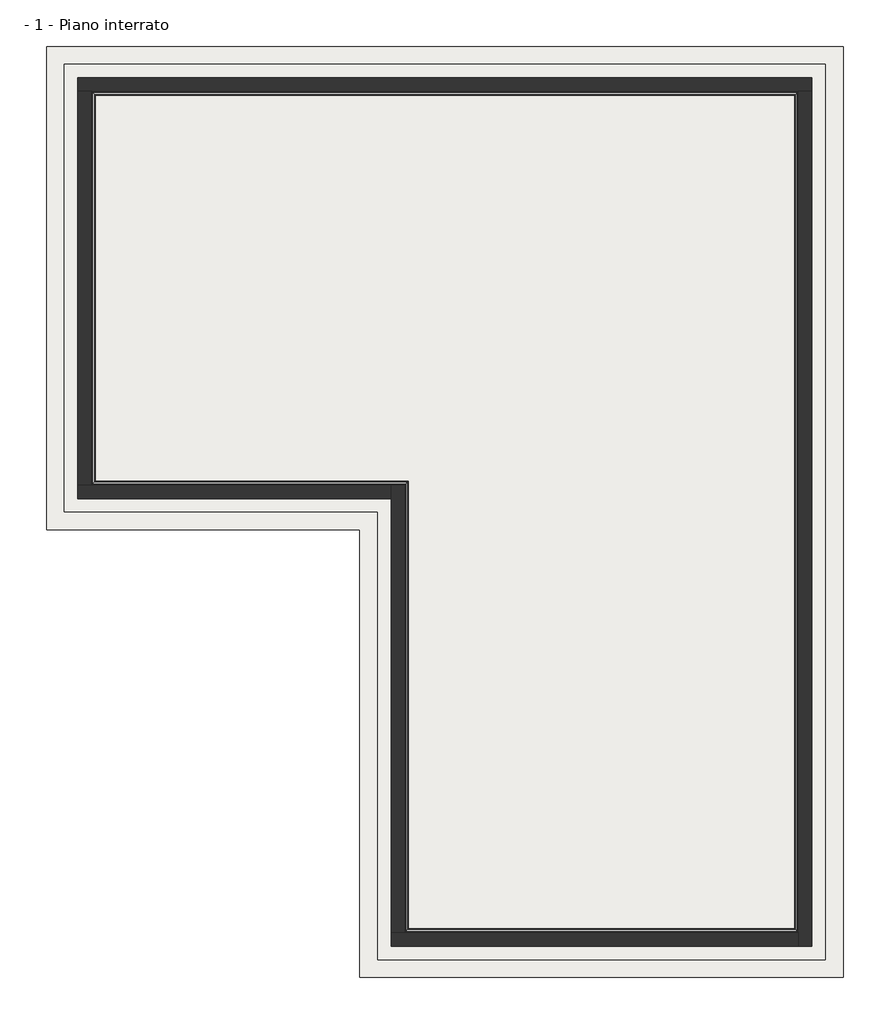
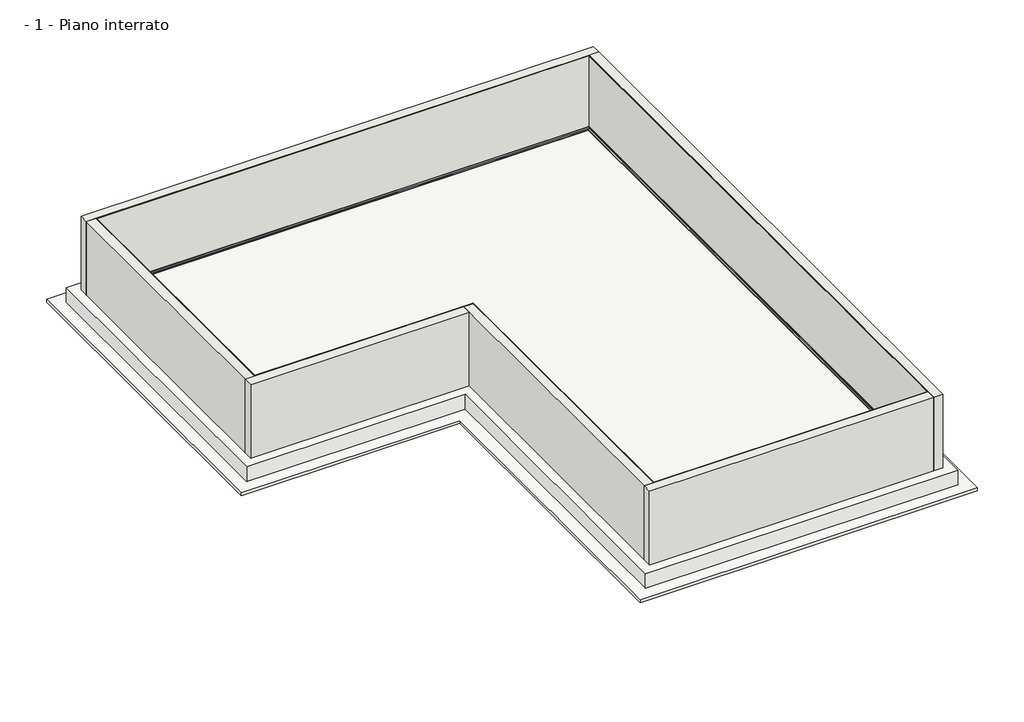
# One storey: 24 walls, 3 slabs, 2 proxies.
"""IFC4 building model written with IfcOpenShell, lengths in millimetres."""

from ifc_helpers import new_model, si_unit, frame, origin, place, context, project, spatial, polyline, outline, extrude, faceted_brep, transform, mapped, element, save
from components import generic_models_3b7ed561

model = new_model("IFC4")

# Units and contexts
model_context = context("Model", 3, world=origin())
ifc_project = project(units=[si_unit("LENGTHUNIT", "METRE", prefix="MILLI")], contexts=[model_context])

# Site, building, storey
site = spatial("IfcSite", under=ifc_project)
building = spatial("IfcBuilding", under=site)
storey = spatial("IfcBuildingStorey", under=building, Name="- 1 - Piano interrato", Elevation=-2500.0)

# Proxies
placement = place(None, origin())
element("IfcBuildingElementProxy", 1, Name="SISTEMA BI FLEX H.10 VOLTECO", ObjectType="SISTEMA BI FLEX H.10 VOLTECO", at=placement, inside=storey, context=model_context, shape_type="Brep", body=[
    faceted_brep([(10189.1031791, -9688.351087, -2459.0), (10191.6031791, -9690.851087, -2456.5), (10198.6031791, -9697.851087, -2456.5), (10200.1031791, -9699.351087, -2455.5), (10247.6031791, -9746.851087, -2455.5), (10247.6031791, -9746.851087, -2408.0), (10248.6031791, -9747.851087, -2406.5), (10248.6031791, -9747.851087, -2399.5), (10251.1031791, -9750.351087, -2397.0), (10251.1031791, -9750.351087, -2459.0), (10250.1031791, -9749.351087, -2408.0), (10249.1031791, -9748.351087, -2408.0), (10249.1031791, -9748.351087, -2457.0), (10200.1031791, -9699.351087, -2457.0), (10200.1031791, -9699.351087, -2458.0), (10250.1031791, -9749.351087, -2458.0), (1555.1031791, -9688.351087, -2459.0), (1493.1031791, -9750.351087, -2459.0), (1493.1031791, -9750.351087, -2397.0), (1495.6031791, -9747.851087, -2399.5), (1495.6031791, -9747.851087, -2406.5), (1496.6031791, -9746.851087, -2408.0), (1496.6031791, -9746.851087, -2455.5), (1544.1031791, -9699.351087, -2455.5), (1545.6031791, -9697.851087, -2456.5), (1552.6031791, -9690.851087, -2456.5), (1494.1031791, -9749.351087, -2408.0), (1494.1031791, -9749.351087, -2458.0), (1544.1031791, -9699.351087, -2458.0), (1544.1031791, -9699.351087, -2457.0), (1495.1031791, -9748.351087, -2457.0), (1495.1031791, -9748.351087, -2408.0)], [[[0, 1, 2, 3, 4, 5, 6, 7, 8, 9], [10, 11, 12, 13, 14, 15]], [[16, 17, 18, 19, 20, 21, 22, 23, 24, 25], [26, 27, 28, 29, 30, 31]], [[1, 0, 16, 25]], [[2, 1, 25, 24]], [[3, 2, 24, 23]], [[4, 3, 23, 22]], [[5, 4, 22, 21]], [[6, 5, 21, 20]], [[7, 6, 20, 19]], [[8, 7, 19, 18]], [[9, 8, 18, 17]], [[0, 9, 17, 16]], [[11, 10, 26, 31]], [[12, 11, 31, 30]], [[13, 12, 30, 29]], [[14, 13, 29, 28]], [[15, 14, 28, 27]], [[10, 15, 27, 26]]]),
    faceted_brep([(1555.1031791, -9688.351087, -2459.0), (1552.6031791, -9690.851087, -2456.5), (1545.6031791, -9697.851087, -2456.5), (1544.1031791, -9699.351087, -2455.5), (1496.6031791, -9746.851087, -2455.5), (1496.6031791, -9746.851087, -2408.0), (1495.6031791, -9747.851087, -2406.5), (1495.6031791, -9747.851087, -2399.5), (1493.1031791, -9750.351087, -2397.0), (1493.1031791, -9750.351087, -2459.0), (1494.1031791, -9749.351087, -2408.0), (1495.1031791, -9748.351087, -2408.0), (1495.1031791, -9748.351087, -2457.0), (1544.1031791, -9699.351087, -2457.0), (1544.1031791, -9699.351087, -2458.0), (1494.1031791, -9749.351087, -2458.0), (1555.1031791, 311.648913, -2459.0), (1493.1031791, 249.648913, -2459.0), (1493.1031791, 249.648913, -2397.0), (1495.6031791, 252.148913, -2399.5), (1495.6031791, 252.148913, -2406.5), (1496.6031791, 253.148913, -2408.0), (1496.6031791, 253.148913, -2455.5), (1544.1031791, 300.648913, -2455.5), (1545.6031791, 302.148913, -2456.5), (1552.6031791, 309.148913, -2456.5), (1494.1031791, 250.648913, -2408.0), (1494.1031791, 250.648913, -2458.0), (1544.1031791, 300.648913, -2458.0), (1544.1031791, 300.648913, -2457.0), (1495.1031791, 251.648913, -2457.0), (1495.1031791, 251.648913, -2408.0)], [[[0, 1, 2, 3, 4, 5, 6, 7, 8, 9], [10, 11, 12, 13, 14, 15]], [[16, 17, 18, 19, 20, 21, 22, 23, 24, 25], [26, 27, 28, 29, 30, 31]], [[1, 0, 16, 25]], [[2, 1, 25, 24]], [[3, 2, 24, 23]], [[4, 3, 23, 22]], [[5, 4, 22, 21]], [[6, 5, 21, 20]], [[7, 6, 20, 19]], [[8, 7, 19, 18]], [[9, 8, 18, 17]], [[0, 9, 17, 16]], [[11, 10, 26, 31]], [[12, 11, 31, 30]], [[13, 12, 30, 29]], [[14, 13, 29, 28]], [[15, 14, 28, 27]], [[10, 15, 27, 26]]]),
    faceted_brep([(1555.1031791, 311.648913, -2459.0), (1552.6031791, 309.148913, -2456.5), (1545.6031791, 302.148913, -2456.5), (1544.1031791, 300.648913, -2455.5), (1496.6031791, 253.148913, -2455.5), (1496.6031791, 253.148913, -2408.0), (1495.6031791, 252.148913, -2406.5), (1495.6031791, 252.148913, -2399.5), (1493.1031791, 249.648913, -2397.0), (1493.1031791, 249.648913, -2459.0), (1494.1031791, 250.648913, -2408.0), (1495.1031791, 251.648913, -2408.0), (1495.1031791, 251.648913, -2457.0), (1544.1031791, 300.648913, -2457.0), (1544.1031791, 300.648913, -2458.0), (1494.1031791, 250.648913, -2458.0), (-5444.8968209, 311.648913, -2459.0), (-5506.8968209, 249.648913, -2459.0), (-5506.8968209, 249.648913, -2397.0), (-5504.3968209, 252.148913, -2399.5), (-5504.3968209, 252.148913, -2406.5), (-5503.3968209, 253.148913, -2408.0), (-5503.3968209, 253.148913, -2455.5), (-5455.8968209, 300.648913, -2455.5), (-5454.3968209, 302.148913, -2456.5), (-5447.3968209, 309.148913, -2456.5), (-5505.8968209, 250.648913, -2408.0), (-5505.8968209, 250.648913, -2458.0), (-5455.8968209, 300.648913, -2458.0), (-5455.8968209, 300.648913, -2457.0), (-5504.8968209, 251.648913, -2457.0), (-5504.8968209, 251.648913, -2408.0)], [[[0, 1, 2, 3, 4, 5, 6, 7, 8, 9], [10, 11, 12, 13, 14, 15]], [[16, 17, 18, 19, 20, 21, 22, 23, 24, 25], [26, 27, 28, 29, 30, 31]], [[1, 0, 16, 25]], [[2, 1, 25, 24]], [[3, 2, 24, 23]], [[4, 3, 23, 22]], [[5, 4, 22, 21]], [[6, 5, 21, 20]], [[7, 6, 20, 19]], [[8, 7, 19, 18]], [[9, 8, 18, 17]], [[0, 9, 17, 16]], [[11, 10, 26, 31]], [[12, 11, 31, 30]], [[13, 12, 30, 29]], [[14, 13, 29, 28]], [[15, 14, 28, 27]], [[10, 15, 27, 26]]]),
    faceted_brep([(-5444.8968209, 311.648913, -2459.0), (-5447.3968209, 309.148913, -2456.5), (-5454.3968209, 302.148913, -2456.5), (-5455.8968209, 300.648913, -2455.5), (-5503.3968209, 253.148913, -2455.5), (-5503.3968209, 253.148913, -2408.0), (-5504.3968209, 252.148913, -2406.5), (-5504.3968209, 252.148913, -2399.5), (-5506.8968209, 249.648913, -2397.0), (-5506.8968209, 249.648913, -2459.0), (-5505.8968209, 250.648913, -2408.0), (-5504.8968209, 251.648913, -2408.0), (-5504.8968209, 251.648913, -2457.0), (-5455.8968209, 300.648913, -2457.0), (-5455.8968209, 300.648913, -2458.0), (-5505.8968209, 250.648913, -2458.0), (-5444.8968209, 8945.648913, -2459.0), (-5506.8968209, 9007.648913, -2459.0), (-5506.8968209, 9007.648913, -2397.0), (-5504.3968209, 9005.148913, -2399.5), (-5504.3968209, 9005.148913, -2406.5), (-5503.3968209, 9004.148913, -2408.0), (-5503.3968209, 9004.148913, -2455.5), (-5455.8968209, 8956.648913, -2455.5), (-5454.3968209, 8955.148913, -2456.5), (-5447.3968209, 8948.148913, -2456.5), (-5505.8968209, 9006.648913, -2408.0), (-5505.8968209, 9006.648913, -2458.0), (-5455.8968209, 8956.648913, -2458.0), (-5455.8968209, 8956.648913, -2457.0), (-5504.8968209, 9005.648913, -2457.0), (-5504.8968209, 9005.648913, -2408.0)], [[[0, 1, 2, 3, 4, 5, 6, 7, 8, 9], [10, 11, 12, 13, 14, 15]], [[16, 17, 18, 19, 20, 21, 22, 23, 24, 25], [26, 27, 28, 29, 30, 31]], [[1, 0, 16, 25]], [[2, 1, 25, 24]], [[3, 2, 24, 23]], [[4, 3, 23, 22]], [[5, 4, 22, 21]], [[6, 5, 21, 20]], [[7, 6, 20, 19]], [[8, 7, 19, 18]], [[9, 8, 18, 17]], [[0, 9, 17, 16]], [[11, 10, 26, 31]], [[12, 11, 31, 30]], [[13, 12, 30, 29]], [[14, 13, 29, 28]], [[15, 14, 28, 27]], [[10, 15, 27, 26]]]),
    faceted_brep([(-5444.8968209, 8945.648913, -2459.0), (-5447.3968209, 8948.148913, -2456.5), (-5454.3968209, 8955.148913, -2456.5), (-5455.8968209, 8956.648913, -2455.5), (-5503.3968209, 9004.148913, -2455.5), (-5503.3968209, 9004.148913, -2408.0), (-5504.3968209, 9005.148913, -2406.5), (-5504.3968209, 9005.148913, -2399.5), (-5506.8968209, 9007.648913, -2397.0), (-5506.8968209, 9007.648913, -2459.0), (-5505.8968209, 9006.648913, -2408.0), (-5504.8968209, 9005.648913, -2408.0), (-5504.8968209, 9005.648913, -2457.0), (-5455.8968209, 8956.648913, -2457.0), (-5455.8968209, 8956.648913, -2458.0), (-5505.8968209, 9006.648913, -2458.0), (10189.1031791, 8945.648913, -2459.0), (10251.1031791, 9007.648913, -2459.0), (10251.1031791, 9007.648913, -2397.0), (10248.6031791, 9005.148913, -2399.5), (10248.6031791, 9005.148913, -2406.5), (10247.6031791, 9004.148913, -2408.0), (10247.6031791, 9004.148913, -2455.5), (10200.1031791, 8956.648913, -2455.5), (10198.6031791, 8955.148913, -2456.5), (10191.6031791, 8948.148913, -2456.5), (10250.1031791, 9006.648913, -2408.0), (10250.1031791, 9006.648913, -2458.0), (10200.1031791, 8956.648913, -2458.0), (10200.1031791, 8956.648913, -2457.0), (10249.1031791, 9005.648913, -2457.0), (10249.1031791, 9005.648913, -2408.0)], [[[0, 1, 2, 3, 4, 5, 6, 7, 8, 9], [10, 11, 12, 13, 14, 15]], [[16, 17, 18, 19, 20, 21, 22, 23, 24, 25], [26, 27, 28, 29, 30, 31]], [[1, 0, 16, 25]], [[2, 1, 25, 24]], [[3, 2, 24, 23]], [[4, 3, 23, 22]], [[5, 4, 22, 21]], [[6, 5, 21, 20]], [[7, 6, 20, 19]], [[8, 7, 19, 18]], [[9, 8, 18, 17]], [[0, 9, 17, 16]], [[11, 10, 26, 31]], [[12, 11, 31, 30]], [[13, 12, 30, 29]], [[14, 13, 29, 28]], [[15, 14, 28, 27]], [[10, 15, 27, 26]]]),
    faceted_brep([(10189.1031791, 8945.648913, -2459.0), (10191.6031791, 8948.148913, -2456.5), (10198.6031791, 8955.148913, -2456.5), (10200.1031791, 8956.648913, -2455.5), (10247.6031791, 9004.148913, -2455.5), (10247.6031791, 9004.148913, -2408.0), (10248.6031791, 9005.148913, -2406.5), (10248.6031791, 9005.148913, -2399.5), (10251.1031791, 9007.648913, -2397.0), (10251.1031791, 9007.648913, -2459.0), (10250.1031791, 9006.648913, -2408.0), (10249.1031791, 9005.648913, -2408.0), (10249.1031791, 9005.648913, -2457.0), (10200.1031791, 8956.648913, -2457.0), (10200.1031791, 8956.648913, -2458.0), (10250.1031791, 9006.648913, -2458.0), (10189.1031791, -9688.351087, -2459.0), (10251.1031791, -9750.351087, -2459.0), (10251.1031791, -9750.351087, -2397.0), (10248.6031791, -9747.851087, -2399.5), (10248.6031791, -9747.851087, -2406.5), (10247.6031791, -9746.851087, -2408.0), (10247.6031791, -9746.851087, -2455.5), (10200.1031791, -9699.351087, -2455.5), (10198.6031791, -9697.851087, -2456.5), (10191.6031791, -9690.851087, -2456.5), (10250.1031791, -9749.351087, -2408.0), (10250.1031791, -9749.351087, -2458.0), (10200.1031791, -9699.351087, -2458.0), (10200.1031791, -9699.351087, -2457.0), (10249.1031791, -9748.351087, -2457.0), (10249.1031791, -9748.351087, -2408.0)], [[[0, 1, 2, 3, 4, 5, 6, 7, 8, 9], [10, 11, 12, 13, 14, 15]], [[16, 17, 18, 19, 20, 21, 22, 23, 24, 25], [26, 27, 28, 29, 30, 31]], [[1, 0, 16, 25]], [[2, 1, 25, 24]], [[3, 2, 24, 23]], [[4, 3, 23, 22]], [[5, 4, 22, 21]], [[6, 5, 21, 20]], [[7, 6, 20, 19]], [[8, 7, 19, 18]], [[9, 8, 18, 17]], [[0, 9, 17, 16]], [[11, 10, 26, 31]], [[12, 11, 31, 30]], [[13, 12, 30, 29]], [[14, 13, 29, 28]], [[15, 14, 28, 27]], [[10, 15, 27, 26]]]),
])
generic_models_shape = generic_models_3b7ed561(model_context)
element("IfcBuildingElementProxy", 2, Name="ENG-Connectors installed in vertical walls sealed with AKTI-VO 201 : ENG-Connectors installed in vertical walls sealed with AKTI-VO 201", ObjectType="ENG-Connectors installed in vertical walls sealed with AKTI-VO 201 : ENG-Connectors installed in vertical walls sealed with AKTI-VO 201", at=placement, inside=storey, context=model_context, shape_type="MappedRepresentation", body=[
    mapped(generic_models_shape, transform((-5445.8968209, 9007.648913, -2481.8734351), x_axis=(1.0, 0.0, 0.0), y_axis=(0.0, 0.0, 1.0), z_axis=(0.0, -1.0, 0.0))),
])

# Slabs
element("IfcSlab", 3, ObjectType="BI MORTAR LEVELLING SEAL VOLTECO", at=placement, inside=storey, context=model_context, shape_type="SweptSolid", body=[
    extrude(outline(polyline([(10251.1031791, 9007.648913), (10251.1031791, -9750.351087), (1493.1031791, -9750.351087), (1493.1031791, 249.648913), (-5506.8968209, 249.648913), (-5506.8968209, 9007.648913), (10251.1031791, 9007.648913)])), frame((0.0, 0.0, -2500.0), z_axis=(0.0, 0.0, 1.0), x_axis=(1.0, 0.0, 0.0)), (0.0, 0.0, 1.0), 20.0),
])
element("IfcSlab", 4, ObjectType="Blinding concrete", at=placement, inside=storey, context=model_context, shape_type="SweptSolid", body=[
    extrude(outline(polyline([(-6527.8968209, 10028.648913), (11272.1031791, 10028.648913), (11272.1031791, -10771.351087), (472.1031791, -10771.351087), (472.1031791, -771.351087), (-6527.8968209, -771.351087), (-6527.8968209, 10028.648913)])), frame((0.0, 0.0, -3100.0), z_axis=(0.0, 0.0, 1.0), x_axis=(1.0, 0.0, 0.0)), (0.0, 0.0, 1.0), 100.0),
])
element("IfcSlab", 5, ObjectType="Raft Foundation", at=placement, inside=storey, context=model_context, shape_type="SweptSolid", body=[
    extrude(outline(polyline([(-6127.8968209, -371.351087), (-6127.8968209, 9628.648913), (10872.1031791, 9628.648913), (10872.1031791, -10371.351087), (872.1031791, -10371.351087), (872.1031791, -371.351087), (-6127.8968209, -371.351087)])), frame((0.0, 0.0, -3000.0), z_axis=(0.0, 0.0, 1.0), x_axis=(1.0, 0.0, 0.0)), (0.0, 0.0, 1.0), 500.0),
])

# Walls
element("IfcWall", 6, ObjectType="BI MORTAR PLASTER SEAL VOLTECO", at=placement, inside=storey, context=model_context, shape_type="Brep", body=[
    faceted_brep([(-5517.8968209, 228.648913, -2500.0), (-5517.8968209, 238.648913, -2500.0), (-5517.8968209, 239.648913, -2500.0), (-5517.8968209, 9018.648913, -2500.0), (-5517.8968209, 9028.648913, -2500.0), (-5517.8968209, 9028.648913, 0.0), (-5517.8968209, 9018.648913, 0.0), (-5517.8968209, 239.648913, 0.0), (-5517.8968209, 238.648913, 0.0), (-5517.8968209, 228.648913, 0.0), (-5527.8968209, 228.648913, -2500.0), (-5527.8968209, 228.648913, 0.0), (-5527.8968209, 9028.648913, 0.0), (-5527.8968209, 9028.648913, -2500.0)], [[[0, 1, 2, 3, 4, 5, 6, 7, 8, 9]], [[10, 11, 12, 13]], [[4, 3, 2, 1, 0, 10, 13]], [[9, 8, 7, 6, 5, 12, 11]], [[5, 4, 13, 12]], [[0, 9, 11, 10]]]),
])
element("IfcWall", 7, ObjectType="BI MORTAR PLASTER SEAL VOLTECO", at=placement, inside=storey, context=model_context, shape_type="Brep", body=[
    faceted_brep([(-5517.8968209, 9018.648913, -2500.0), (-5516.8968209, 9018.648913, -2500.0), (10262.1031791, 9018.648913, -2500.0), (10272.1031791, 9018.648913, -2500.0), (10272.1031791, 9018.648913, 0.0), (10262.1031791, 9018.648913, 0.0), (-5516.8968209, 9018.648913, 0.0), (-5517.8968209, 9018.648913, 0.0), (-5517.8968209, 9028.648913, -2500.0), (-5517.8968209, 9028.648913, 0.0), (10272.1031791, 9028.648913, 0.0), (10272.1031791, 9028.648913, -2500.0)], [[[0, 1, 2, 3, 4, 5, 6, 7]], [[8, 9, 10, 11]], [[3, 2, 1, 0, 8, 11]], [[7, 6, 5, 4, 10, 9]], [[4, 3, 11, 10]], [[0, 7, 9, 8]]]),
])
element("IfcWall", 8, ObjectType="BI MORTAR PLASTER SEAL VOLTECO", at=placement, inside=storey, context=model_context, shape_type="Brep", body=[
    faceted_brep([(10272.1031791, -9761.351087, -2500.0), (10262.1031791, -9761.351087, -2500.0), (10261.1031791, -9761.351087, -2500.0), (1482.1031791, -9761.351087, -2500.0), (1472.1031791, -9761.351087, -2500.0), (1472.1031791, -9761.351087, 0.0), (1482.1031791, -9761.351087, 0.0), (10261.1031791, -9761.351087, 0.0), (10262.1031791, -9761.351087, 0.0), (10272.1031791, -9761.351087, 0.0), (10272.1031791, -9771.351087, -2500.0), (10272.1031791, -9771.351087, 0.0), (1472.1031791, -9771.351087, 0.0), (1472.1031791, -9771.351087, -2500.0)], [[[0, 1, 2, 3, 4, 5, 6, 7, 8, 9]], [[10, 11, 12, 13]], [[4, 3, 2, 1, 0, 10, 13]], [[9, 8, 7, 6, 5, 12, 11]], [[5, 4, 13, 12]], [[0, 9, 11, 10]]]),
])
element("IfcWall", 9, ObjectType="BI MORTAR PLASTER SEAL VOLTECO", at=placement, inside=storey, context=model_context, shape_type="Brep", body=[
    faceted_brep([(1482.1031791, -9761.351087, -2500.0), (1482.1031791, -9760.351087, -2500.0), (1482.1031791, 238.648913, -2500.0), (1482.1031791, 238.648913, 0.0), (1482.1031791, -9760.351087, 0.0), (1482.1031791, -9761.351087, 0.0), (1472.1031791, -9761.351087, -2500.0), (1472.1031791, -9761.351087, 0.0), (1472.1031791, 228.648913, 0.0), (1472.1031791, 238.648913, 0.0), (1472.1031791, 238.648913, -2500.0), (1472.1031791, 228.648913, -2500.0)], [[[0, 1, 2, 3, 4, 5]], [[6, 7, 8, 9, 10, 11]], [[2, 1, 0, 6, 11, 10]], [[5, 4, 3, 9, 8, 7]], [[0, 5, 7, 6]], [[3, 2, 10, 9]]]),
])
element("IfcWall", 10, ObjectType="BI MORTAR PLASTER SEAL VOLTECO", at=placement, inside=storey, context=model_context, shape_type="SweptSolid", body=[
    extrude(outline(polyline([(-5517.8968209, 238.648913), (1472.1031791, 238.648913), (1472.1031791, 228.648913), (-5517.8968209, 228.648913), (-5517.8968209, 238.648913)])), frame((0.0, 0.0, -2500.0), z_axis=(0.0, 0.0, 1.0), x_axis=(1.0, 0.0, 0.0)), (0.0, 0.0, 1.0), 2500.0),
])
element("IfcWall", 11, ObjectType="REVOMAT VOLTECO", at=placement, inside=storey, context=model_context, shape_type="Brep", body=[
    faceted_brep([(1483.1031791, 239.648913, -2500.0), (-5506.8968209, 239.648913, -2500.0), (-5516.8968209, 239.648913, -2500.0), (-5517.8968209, 239.648913, -2500.0), (-5517.8968209, 239.648913, 0.0), (-5516.8968209, 239.648913, 0.0), (-5506.8968209, 239.648913, 0.0), (1483.1031791, 239.648913, 0.0), (1483.1031791, 238.648913, -2500.0), (1483.1031791, 238.648913, 0.0), (1482.1031791, 238.648913, 0.0), (-5517.8968209, 238.648913, 0.0), (-5517.8968209, 238.648913, -2500.0), (1482.1031791, 238.648913, -2500.0)], [[[0, 1, 2, 3, 4, 5, 6, 7]], [[8, 9, 10, 11, 12, 13]], [[3, 2, 1, 0, 8, 13, 12]], [[7, 6, 5, 4, 11, 10, 9]], [[4, 3, 12, 11]], [[0, 7, 9, 8]]]),
])
element("IfcWall", 12, ObjectType="REVOMAT VOLTECO", at=placement, inside=storey, context=model_context, shape_type="Brep", body=[
    faceted_brep([(-5516.8968209, 239.648913, -2500.0), (-5516.8968209, 9017.648913, -2500.0), (-5516.8968209, 9018.648913, -2500.0), (-5516.8968209, 9018.648913, 0.0), (-5516.8968209, 9017.648913, 0.0), (-5516.8968209, 239.648913, 0.0), (-5517.8968209, 239.648913, -2500.0), (-5517.8968209, 239.648913, 0.0), (-5517.8968209, 9018.648913, 0.0), (-5517.8968209, 9018.648913, -2500.0)], [[[0, 1, 2, 3, 4, 5]], [[6, 7, 8, 9]], [[2, 1, 0, 6, 9]], [[5, 4, 3, 8, 7]], [[3, 2, 9, 8]], [[0, 5, 7, 6]]]),
])
element("IfcWall", 13, ObjectType="BI MORTAR PLASTER SEAL VOLTECO", at=placement, inside=storey, context=model_context, shape_type="Brep", body=[
    faceted_brep([(10262.1031791, 9018.648913, -2500.0), (10262.1031791, 9017.648913, -2500.0), (10262.1031791, -9761.351087, -2500.0), (10262.1031791, -9761.351087, 0.0), (10262.1031791, 9017.648913, 0.0), (10262.1031791, 9018.648913, 0.0), (10272.1031791, 9018.648913, -2500.0), (10272.1031791, 9018.648913, 0.0), (10272.1031791, -9761.351087, 0.0), (10272.1031791, -9761.351087, -2500.0)], [[[0, 1, 2, 3, 4, 5]], [[6, 7, 8, 9]], [[2, 1, 0, 6, 9]], [[5, 4, 3, 8, 7]], [[3, 2, 9, 8]], [[0, 5, 7, 6]]]),
])
element("IfcWall", 14, ObjectType="REVOMAT VOLTECO", at=placement, inside=storey, context=model_context, shape_type="Brep", body=[
    faceted_brep([(-5516.8968209, 9017.648913, -2500.0), (-5506.8968209, 9017.648913, -2500.0), (10261.1031791, 9017.648913, -2500.0), (10262.1031791, 9017.648913, -2500.0), (10262.1031791, 9017.648913, 0.0), (10261.1031791, 9017.648913, 0.0), (-5506.8968209, 9017.648913, 0.0), (-5516.8968209, 9017.648913, 0.0), (-5516.8968209, 9018.648913, -2500.0), (-5516.8968209, 9018.648913, 0.0), (10262.1031791, 9018.648913, 0.0), (10262.1031791, 9018.648913, -2500.0)], [[[0, 1, 2, 3, 4, 5, 6, 7]], [[8, 9, 10, 11]], [[3, 2, 1, 0, 8, 11]], [[7, 6, 5, 4, 10, 9]], [[0, 7, 9, 8]], [[4, 3, 11, 10]]]),
])
element("IfcWall", 15, ObjectType="REVOMAT VOLTECO", at=placement, inside=storey, context=model_context, shape_type="Brep", body=[
    faceted_brep([(10261.1031791, 9017.648913, -2500.0), (10261.1031791, 9007.648913, -2500.0), (10261.1031791, -9760.351087, -2500.0), (10261.1031791, -9761.351087, -2500.0), (10261.1031791, -9761.351087, 0.0), (10261.1031791, -9760.351087, 0.0), (10261.1031791, 9007.648913, 0.0), (10261.1031791, 9017.648913, 0.0), (10262.1031791, 9017.648913, -2500.0), (10262.1031791, 9017.648913, 0.0), (10262.1031791, -9761.351087, 0.0), (10262.1031791, -9761.351087, -2500.0)], [[[0, 1, 2, 3, 4, 5, 6, 7]], [[8, 9, 10, 11]], [[3, 2, 1, 0, 8, 11]], [[7, 6, 5, 4, 10, 9]], [[4, 3, 11, 10]], [[0, 7, 9, 8]]]),
])
element("IfcWall", 16, ObjectType="REVOMAT VOLTECO", at=placement, inside=storey, context=model_context, shape_type="Brep", body=[
    faceted_brep([(10261.1031791, -9760.351087, -2500.0), (10251.1031791, -9760.351087, -2500.0), (1483.1031791, -9760.351087, -2500.0), (1482.1031791, -9760.351087, -2500.0), (1482.1031791, -9760.351087, 0.0), (1483.1031791, -9760.351087, 0.0), (10251.1031791, -9760.351087, 0.0), (10261.1031791, -9760.351087, 0.0), (10261.1031791, -9761.351087, -2500.0), (10261.1031791, -9761.351087, 0.0), (1482.1031791, -9761.351087, 0.0), (1482.1031791, -9761.351087, -2500.0)], [[[0, 1, 2, 3, 4, 5, 6, 7]], [[8, 9, 10, 11]], [[3, 2, 1, 0, 8, 11]], [[7, 6, 5, 4, 10, 9]], [[4, 3, 11, 10]], [[0, 7, 9, 8]]]),
])
element("IfcWall", 17, ObjectType="REVOMAT VOLTECO", at=placement, inside=storey, context=model_context, shape_type="Brep", body=[
    faceted_brep([(1483.1031791, -9760.351087, -2500.0), (1483.1031791, -9750.351087, -2500.0), (1483.1031791, 238.648913, -2500.0), (1483.1031791, 238.648913, 0.0), (1483.1031791, -9750.351087, 0.0), (1483.1031791, -9760.351087, 0.0), (1482.1031791, -9760.351087, -2500.0), (1482.1031791, -9760.351087, 0.0), (1482.1031791, 238.648913, 0.0), (1482.1031791, 238.648913, -2500.0)], [[[0, 1, 2, 3, 4, 5]], [[6, 7, 8, 9]], [[2, 1, 0, 6, 9]], [[5, 4, 3, 8, 7]], [[3, 2, 9, 8]], [[0, 5, 7, 6]]]),
])
element("IfcWall", 18, ObjectType="BI MORTAR PLASTER SEAL VOLTECO", at=placement, inside=storey, context=model_context, shape_type="Brep", body=[
    faceted_brep([(-5506.8968209, 239.648913, -2500.0), (-5506.8968209, 249.648913, -2500.0), (-5506.8968209, 9007.648913, -2500.0), (-5506.8968209, 9017.648913, -2500.0), (-5506.8968209, 9017.648913, 0.0), (-5506.8968209, 9007.648913, 0.0), (-5506.8968209, 249.648913, 0.0), (-5506.8968209, 239.648913, 0.0), (-5516.8968209, 239.648913, -2500.0), (-5516.8968209, 239.648913, 0.0), (-5516.8968209, 9017.648913, 0.0), (-5516.8968209, 9017.648913, -2500.0)], [[[0, 1, 2, 3, 4, 5, 6, 7]], [[8, 9, 10, 11]], [[3, 2, 1, 0, 8, 11]], [[7, 6, 5, 4, 10, 9]], [[0, 7, 9, 8]], [[4, 3, 11, 10]]]),
])
element("IfcWall", 19, ObjectType="BI MORTAR PLASTER SEAL VOLTECO", at=placement, inside=storey, context=model_context, shape_type="Brep", body=[
    faceted_brep([(-5506.8968209, 9007.648913, -2500.0), (10251.1031791, 9007.648913, -2500.0), (10261.1031791, 9007.648913, -2500.0), (10261.1031791, 9007.648913, 0.0), (10251.1031791, 9007.648913, 0.0), (-5506.8968209, 9007.648913, 0.0), (-5506.8968209, 9017.648913, -2500.0), (-5506.8968209, 9017.648913, 0.0), (10261.1031791, 9017.648913, 0.0), (10261.1031791, 9017.648913, -2500.0)], [[[0, 1, 2, 3, 4, 5]], [[6, 7, 8, 9]], [[2, 1, 0, 6, 9]], [[5, 4, 3, 8, 7]], [[3, 2, 9, 8]], [[0, 5, 7, 6]]]),
])
element("IfcWall", 20, ObjectType="BI MORTAR PLASTER SEAL VOLTECO", at=placement, inside=storey, context=model_context, shape_type="Brep", body=[
    faceted_brep([(10251.1031791, 9007.648913, -2500.0), (10251.1031791, -9750.351087, -2500.0), (10251.1031791, -9760.351087, -2500.0), (10251.1031791, -9760.351087, 0.0), (10251.1031791, -9750.351087, 0.0), (10251.1031791, 9007.648913, 0.0), (10261.1031791, 9007.648913, -2500.0), (10261.1031791, 9007.648913, 0.0), (10261.1031791, -9760.351087, 0.0), (10261.1031791, -9760.351087, -2500.0)], [[[0, 1, 2, 3, 4, 5]], [[6, 7, 8, 9]], [[2, 1, 0, 6, 9]], [[5, 4, 3, 8, 7]], [[3, 2, 9, 8]], [[0, 5, 7, 6]]]),
])
element("IfcWall", 21, ObjectType="BI MORTAR PLASTER SEAL VOLTECO", at=placement, inside=storey, context=model_context, shape_type="Brep", body=[
    faceted_brep([(10251.1031791, -9750.351087, -2500.0), (1493.1031791, -9750.351087, -2500.0), (1483.1031791, -9750.351087, -2500.0), (1483.1031791, -9750.351087, 0.0), (1493.1031791, -9750.351087, 0.0), (10251.1031791, -9750.351087, 0.0), (10251.1031791, -9760.351087, -2500.0), (10251.1031791, -9760.351087, 0.0), (1483.1031791, -9760.351087, 0.0), (1483.1031791, -9760.351087, -2500.0)], [[[0, 1, 2, 3, 4, 5]], [[6, 7, 8, 9]], [[2, 1, 0, 6, 9]], [[5, 4, 3, 8, 7]], [[3, 2, 9, 8]], [[0, 5, 7, 6]]]),
])
element("IfcWall", 22, ObjectType="BI MORTAR PLASTER SEAL VOLTECO", at=placement, inside=storey, context=model_context, shape_type="Brep", body=[
    faceted_brep([(1493.1031791, -9750.351087, -2500.0), (1493.1031791, 249.648913, -2500.0), (1493.1031791, 249.648913, 0.0), (1493.1031791, -9750.351087, 0.0), (1483.1031791, -9750.351087, -2500.0), (1483.1031791, -9750.351087, 0.0), (1483.1031791, 238.648913, 0.0), (1483.1031791, 239.648913, 0.0), (1483.1031791, 249.648913, 0.0), (1483.1031791, 249.648913, -2500.0), (1483.1031791, 239.648913, -2500.0), (1483.1031791, 238.648913, -2500.0)], [[[0, 1, 2, 3]], [[4, 5, 6, 7, 8, 9, 10, 11]], [[1, 0, 4, 11, 10, 9]], [[3, 2, 8, 7, 6, 5]], [[0, 3, 5, 4]], [[2, 1, 9, 8]]]),
])
element("IfcWall", 23, ObjectType="BI MORTAR PLASTER SEAL VOLTECO", at=placement, inside=storey, context=model_context, shape_type="SweptSolid", body=[
    extrude(outline(polyline([(-5506.8968209, 249.648913), (1483.1031791, 249.648913), (1483.1031791, 239.648913), (-5506.8968209, 239.648913), (-5506.8968209, 249.648913)])), frame((0.0, 0.0, -2500.0), z_axis=(0.0, 0.0, 1.0), x_axis=(1.0, 0.0, 0.0)), (0.0, 0.0, 1.0), 2500.0),
])
element("IfcWall", 24, ObjectType="RC WALL", at=placement, inside=storey, context=model_context, shape_type="Brep", body=[
    faceted_brep([(-5827.8968209, 9028.648913, -2500.0), (-5527.8968209, 9028.648913, -2500.0), (10272.1031791, 9028.648913, -2500.0), (10572.1031791, 9028.648913, -2500.0), (10572.1031791, 9028.648913, 0.0), (10272.1031791, 9028.648913, 0.0), (-5527.8968209, 9028.648913, 0.0), (-5827.8968209, 9028.648913, 0.0), (-5827.8968209, 9328.648913, -2500.0), (-5827.8968209, 9328.648913, 0.0), (10572.1031791, 9328.648913, 0.0), (10572.1031791, 9328.648913, -2500.0)], [[[0, 1, 2, 3, 4, 5, 6, 7]], [[8, 9, 10, 11]], [[3, 2, 1, 0, 8, 11]], [[7, 6, 5, 4, 10, 9]], [[4, 3, 11, 10]], [[0, 7, 9, 8]]]),
])
element("IfcWall", 25, ObjectType="RC WALL", at=placement, inside=storey, context=model_context, shape_type="Brep", body=[
    faceted_brep([(10272.1031791, 9028.648913, -2500.0), (10272.1031791, -9771.351087, -2500.0), (10272.1031791, -10071.351087, -2500.0), (10272.1031791, -10071.351087, 0.0), (10272.1031791, -9771.351087, 0.0), (10272.1031791, 9028.648913, 0.0), (10572.1031791, 9028.648913, -2500.0), (10572.1031791, 9028.648913, 0.0), (10572.1031791, -10071.351087, 0.0), (10572.1031791, -10071.351087, -2500.0)], [[[0, 1, 2, 3, 4, 5]], [[6, 7, 8, 9]], [[2, 1, 0, 6, 9]], [[5, 4, 3, 8, 7]], [[0, 5, 7, 6]], [[3, 2, 9, 8]]]),
])
element("IfcWall", 26, ObjectType="RC WALL", at=placement, inside=storey, context=model_context, shape_type="Brep", body=[
    faceted_brep([(10272.1031791, -9771.351087, -2500.0), (1472.1031791, -9771.351087, -2500.0), (1172.1031791, -9771.351087, -2500.0), (1172.1031791, -9771.351087, 0.0), (1472.1031791, -9771.351087, 0.0), (10272.1031791, -9771.351087, 0.0), (10272.1031791, -10071.351087, -2500.0), (10272.1031791, -10071.351087, 0.0), (1172.1031791, -10071.351087, 0.0), (1172.1031791, -10071.351087, -2500.0)], [[[0, 1, 2, 3, 4, 5]], [[6, 7, 8, 9]], [[2, 1, 0, 6, 9]], [[5, 4, 3, 8, 7]], [[0, 5, 7, 6]], [[3, 2, 9, 8]]]),
])
element("IfcWall", 27, ObjectType="RC WALL", at=placement, inside=storey, context=model_context, shape_type="Brep", body=[
    faceted_brep([(1472.1031791, -9771.351087, -2500.0), (1472.1031791, 228.648913, -2500.0), (1472.1031791, 228.648913, 0.0), (1472.1031791, -9771.351087, 0.0), (1172.1031791, -9771.351087, -2500.0), (1172.1031791, -9771.351087, 0.0), (1172.1031791, -71.351087, 0.0), (1172.1031791, 228.648913, 0.0), (1172.1031791, 228.648913, -2500.0), (1172.1031791, -71.351087, -2500.0)], [[[0, 1, 2, 3]], [[4, 5, 6, 7, 8, 9]], [[1, 0, 4, 9, 8]], [[3, 2, 7, 6, 5]], [[0, 3, 5, 4]], [[2, 1, 8, 7]]]),
])
element("IfcWall", 28, ObjectType="RC WALL", at=placement, inside=storey, context=model_context, shape_type="Brep", body=[
    faceted_brep([(1172.1031791, 228.648913, -2500.0), (-5527.8968209, 228.648913, -2500.0), (-5827.8968209, 228.648913, -2500.0), (-5827.8968209, 228.648913, 0.0), (-5527.8968209, 228.648913, 0.0), (1172.1031791, 228.648913, 0.0), (1172.1031791, -71.351087, -2500.0), (1172.1031791, -71.351087, 0.0), (-5827.8968209, -71.351087, 0.0), (-5827.8968209, -71.351087, -2500.0)], [[[0, 1, 2, 3, 4, 5]], [[6, 7, 8, 9]], [[2, 1, 0, 6, 9]], [[5, 4, 3, 8, 7]], [[0, 5, 7, 6]], [[3, 2, 9, 8]]]),
])
element("IfcWall", 29, ObjectType="RC WALL", at=placement, inside=storey, context=model_context, shape_type="SweptSolid", body=[
    extrude(outline(polyline([(-5527.8968209, 9028.648913), (-5527.8968209, 228.648913), (-5827.8968209, 228.648913), (-5827.8968209, 9028.648913), (-5527.8968209, 9028.648913)])), frame((0.0, 0.0, -2500.0), z_axis=(0.0, 0.0, 1.0), x_axis=(1.0, 0.0, 0.0)), (0.0, 0.0, 1.0), 2500.0),
])

save(model, "model.ifc")
